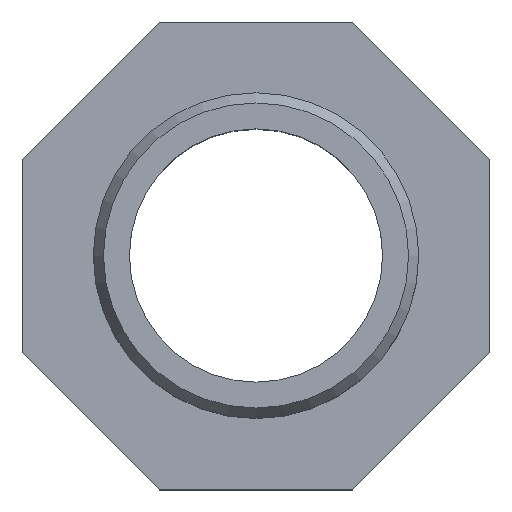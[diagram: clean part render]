
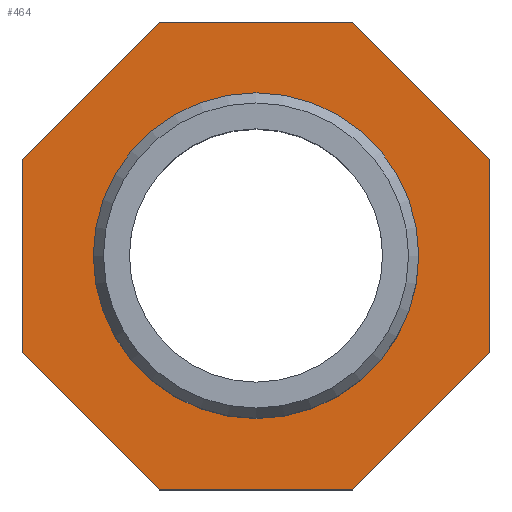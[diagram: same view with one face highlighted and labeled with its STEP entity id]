
A CAD part, top view. The second image highlights one B-rep face of the part: STEP entity #464.
In plain terms, the highlighted planar face has unit normal (0, 0, 1).
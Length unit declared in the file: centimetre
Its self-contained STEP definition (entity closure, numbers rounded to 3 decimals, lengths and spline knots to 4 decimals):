
#18=LINE('',#4065,#45);
#22=LINE('',#4073,#49);
#25=LINE('',#4079,#52);
#28=LINE('',#4085,#55);
#31=LINE('',#4091,#58);
#34=LINE('',#4097,#61);
#37=LINE('',#4103,#64);
#40=LINE('',#4108,#67);
#45=VECTOR('',#554,1.9054);
#49=VECTOR('',#560,1.9054);
#52=VECTOR('',#565,1.9054);
#55=VECTOR('',#570,1.9054);
#58=VECTOR('',#575,1.9054);
#61=VECTOR('',#580,1.9054);
#64=VECTOR('',#585,1.9054);
#67=VECTOR('',#590,1.9054);
#98=PLANE('',#500);
#108=FACE_BOUND('',#173,.T.);
#137=FACE_OUTER_BOUND('',#172,.T.);
#172=EDGE_LOOP('',(#382,#383,#384,#385,#386,#387,#388,#389));
#173=EDGE_LOOP('',(#390));
#195=CIRCLE('',#484,1.6);
#216=VERTEX_POINT('',#696);
#224=VERTEX_POINT('',#4063);
#225=VERTEX_POINT('',#4064);
#228=VERTEX_POINT('',#4072);
#230=VERTEX_POINT('',#4078);
#232=VERTEX_POINT('',#4084);
#234=VERTEX_POINT('',#4090);
#236=VERTEX_POINT('',#4096);
#238=VERTEX_POINT('',#4102);
#256=EDGE_CURVE('',#216,#216,#195,.T.);
#270=EDGE_CURVE('',#224,#225,#18,.T.);
#274=EDGE_CURVE('',#228,#224,#22,.T.);
#277=EDGE_CURVE('',#230,#228,#25,.T.);
#280=EDGE_CURVE('',#232,#230,#28,.T.);
#283=EDGE_CURVE('',#234,#232,#31,.T.);
#286=EDGE_CURVE('',#236,#234,#34,.T.);
#289=EDGE_CURVE('',#238,#236,#37,.T.);
#292=EDGE_CURVE('',#225,#238,#40,.T.);
#382=ORIENTED_EDGE('',*,*,#292,.F.);
#383=ORIENTED_EDGE('',*,*,#270,.F.);
#384=ORIENTED_EDGE('',*,*,#274,.F.);
#385=ORIENTED_EDGE('',*,*,#277,.F.);
#386=ORIENTED_EDGE('',*,*,#280,.F.);
#387=ORIENTED_EDGE('',*,*,#283,.F.);
#388=ORIENTED_EDGE('',*,*,#286,.F.);
#389=ORIENTED_EDGE('',*,*,#289,.F.);
#390=ORIENTED_EDGE('',*,*,#256,.F.);
#464=ADVANCED_FACE('',(#137,#108),#98,.T.);
#484=AXIS2_PLACEMENT_3D('',#697,#535,#536);
#500=AXIS2_PLACEMENT_3D('',#4111,#594,#595);
#535=DIRECTION('center_axis',(0.,0.,1.));
#536=DIRECTION('ref_axis',(1.,0.,0.));
#554=DIRECTION('',(1.,0.,0.));
#560=DIRECTION('',(0.707,0.707,0.));
#565=DIRECTION('',(0.,1.,0.));
#570=DIRECTION('',(-0.707,0.707,0.));
#575=DIRECTION('',(-1.,0.,0.));
#580=DIRECTION('',(-0.707,-0.707,0.));
#585=DIRECTION('',(0.,-1.,0.));
#590=DIRECTION('',(0.707,-0.707,0.));
#594=DIRECTION('center_axis',(0.,0.,1.));
#595=DIRECTION('ref_axis',(1.,0.,0.));
#696=CARTESIAN_POINT('',(1.198,-0.003,0.9233));
#697=CARTESIAN_POINT('Origin',(-0.402,-0.003,
0.9233));
#4063=CARTESIAN_POINT('',(-1.3547,2.297,0.9233));
#4064=CARTESIAN_POINT('',(0.5507,2.297,0.9233));
#4065=CARTESIAN_POINT('',(-1.3547,2.297,0.9233));
#4072=CARTESIAN_POINT('',(-2.702,0.9497,0.9233));
#4073=CARTESIAN_POINT('',(-2.702,0.9497,0.9233));
#4078=CARTESIAN_POINT('',(-2.702,-0.9557,0.9233));
#4079=CARTESIAN_POINT('',(-2.702,-0.9557,0.9233));
#4084=CARTESIAN_POINT('',(-1.3547,-2.303,0.9233));
#4085=CARTESIAN_POINT('',(-1.3547,-2.303,0.9233));
#4090=CARTESIAN_POINT('',(0.5507,-2.303,0.9233));
#4091=CARTESIAN_POINT('',(0.5507,-2.303,0.9233));
#4096=CARTESIAN_POINT('',(1.898,-0.9557,0.9233));
#4097=CARTESIAN_POINT('',(1.898,-0.9557,0.9233));
#4102=CARTESIAN_POINT('',(1.898,0.9497,0.9233));
#4103=CARTESIAN_POINT('',(1.898,0.9497,0.9233));
#4108=CARTESIAN_POINT('',(0.5507,2.297,0.9233));
#4111=CARTESIAN_POINT('Origin',(1.198,-0.003,0.9233));
